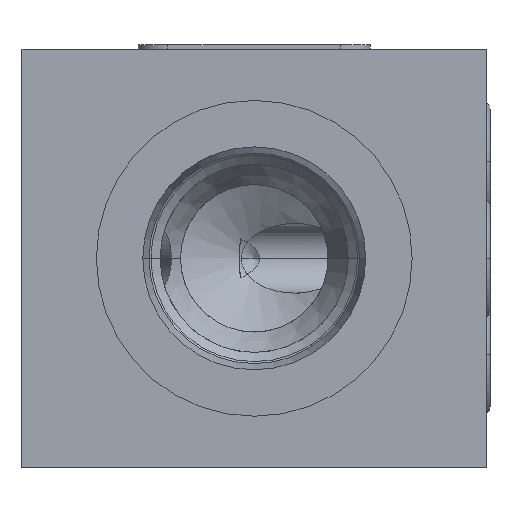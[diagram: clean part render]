
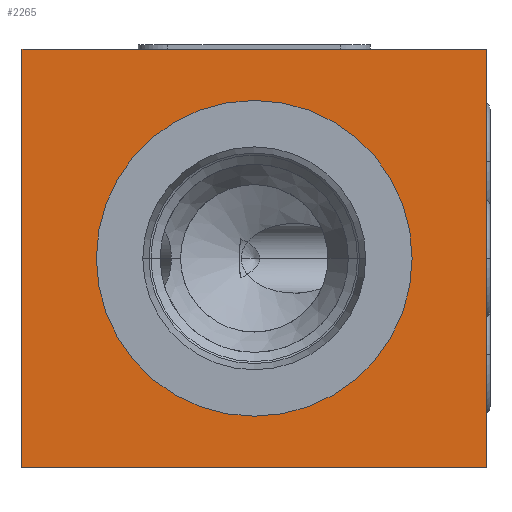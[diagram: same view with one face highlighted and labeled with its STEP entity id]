
A CAD part, left-side view. The second image highlights one B-rep face of the part: STEP entity #2265.
In plain terms, the highlighted planar face has unit normal (-1, 0, 0).
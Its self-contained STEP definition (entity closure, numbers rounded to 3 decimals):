
#52=DIRECTION('',(0.,0.,-1.));
#53=VECTOR('',#52,45.);
#54=CARTESIAN_POINT('',(0.,0.,0.));
#55=LINE('',#54,#53);
#59=DIRECTION('',(0.,1.,0.));
#60=VECTOR('',#59,50.);
#61=CARTESIAN_POINT('',(0.,0.,-45.));
#62=LINE('',#61,#60);
#66=DIRECTION('',(0.,0.,1.));
#67=VECTOR('',#66,45.);
#68=CARTESIAN_POINT('',(0.,50.,-45.));
#69=LINE('',#68,#67);
#73=DIRECTION('',(0.,-1.,0.));
#74=VECTOR('',#73,50.);
#75=CARTESIAN_POINT('',(0.,50.,0.));
#76=LINE('',#75,#74);
#80=CARTESIAN_POINT('',(0.,25.,-22.5));
#81=DIRECTION('',(1.,0.,0.));
#82=DIRECTION('',(0.,-1.,0.));
#83=AXIS2_PLACEMENT_3D('',#80,#81,#82);
#88=CARTESIAN_POINT('',(0.,25.,-22.5));
#89=DIRECTION('',(1.,0.,0.));
#90=DIRECTION('',(0.,1.,0.));
#91=AXIS2_PLACEMENT_3D('',#88,#89,#90);
#2027=CARTESIAN_POINT('',(0.,0.,0.));
#2028=CARTESIAN_POINT('',(0.,0.,-45.));
#2029=VERTEX_POINT('',#2027);
#2030=VERTEX_POINT('',#2028);
#2031=CARTESIAN_POINT('',(0.,50.,-45.));
#2032=VERTEX_POINT('',#2031);
#2033=CARTESIAN_POINT('',(0.,50.,0.));
#2034=VERTEX_POINT('',#2033);
#2145=CARTESIAN_POINT('',(0.,8.,-22.5));
#2146=VERTEX_POINT('',#2145);
#2147=CARTESIAN_POINT('',(0.,42.,-22.5));
#2148=VERTEX_POINT('',#2147);
#2244=CARTESIAN_POINT('',(0.,0.,0.));
#2245=DIRECTION('',(1.,0.,0.));
#2246=DIRECTION('',(0.,0.,-1.));
#2247=AXIS2_PLACEMENT_3D('',#2244,#2245,#2246);
#2248=PLANE('',#2247);
#2250=ORIENTED_EDGE('',*,*,#2249,.T.);
#2252=ORIENTED_EDGE('',*,*,#2251,.T.);
#2254=ORIENTED_EDGE('',*,*,#2253,.T.);
#2256=ORIENTED_EDGE('',*,*,#2255,.T.);
#2257=EDGE_LOOP('',(#2250,#2252,#2254,#2256));
#2258=FACE_OUTER_BOUND('',#2257,.F.);
#2260=ORIENTED_EDGE('',*,*,#2259,.F.);
#2262=ORIENTED_EDGE('',*,*,#2261,.F.);
#2263=EDGE_LOOP('',(#2260,#2262));
#2264=FACE_BOUND('',#2263,.F.);
#84=CIRCLE('',#83,17.);
#92=CIRCLE('',#91,17.);
#2249=EDGE_CURVE('',#2029,#2030,#55,.T.);
#2251=EDGE_CURVE('',#2030,#2032,#62,.T.);
#2253=EDGE_CURVE('',#2032,#2034,#69,.T.);
#2255=EDGE_CURVE('',#2034,#2029,#76,.T.);
#2259=EDGE_CURVE('',#2146,#2148,#84,.T.);
#2261=EDGE_CURVE('',#2148,#2146,#92,.T.);
#2265=ADVANCED_FACE('',(#2258,#2264),#2248,.F.);
